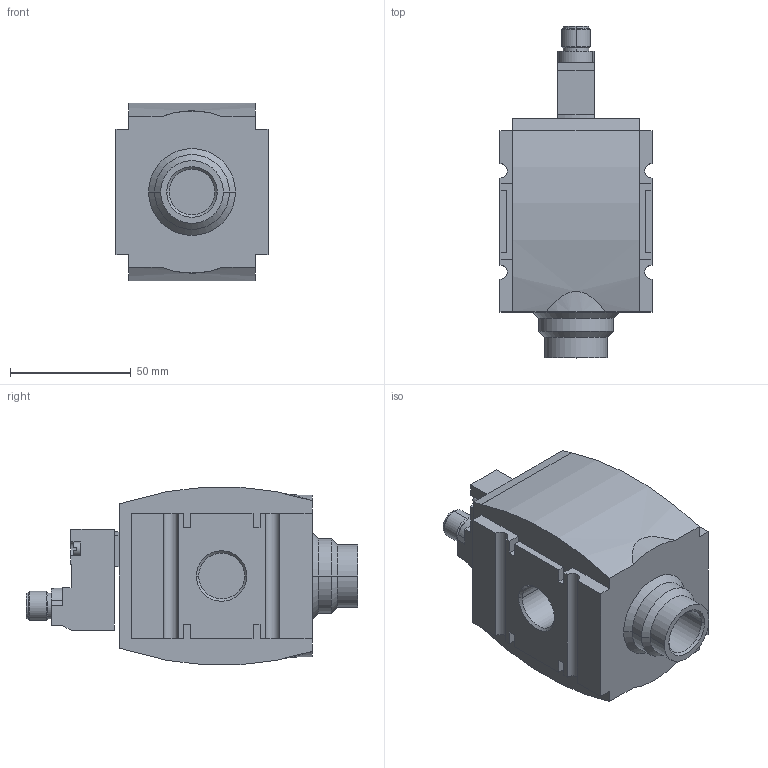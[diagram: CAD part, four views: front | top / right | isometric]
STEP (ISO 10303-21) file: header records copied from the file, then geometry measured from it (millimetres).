
FILE_DESCRIPTION((''),'2;1');
FILE_NAME('R412007354','2016-06-22T',('prr2cob'),(''),'PRO/ENGINEER BY PARAMETRIC TECHNOLOGY CORPORATION, 2012421','PRO/ENGINEER BY PARAMETRIC TECHNOLOGY CORPORATION, 2012421','');
FILE_SCHEMA(('CONFIG_CONTROL_DESIGN','SHAPE_APPEARANCE_LAYERS_GROUPS'));
Length unit declared in the file: millimetre
Products named in the file (1): R412007354
Bounding box: 63 x 137.55 x 73.54 mm (x, y, z)
Volume: 341154.9 mm3; surface area: 40323 mm2
Topology: 1 solids, 5 shells, 185 faces, 464 edges, 300 vertices
Faces by surface type: plane 114, cylinder 53, cone 18
Entity records: 5644 total; most frequent: CARTESIAN_POINT 1035, DIRECTION 970, ORIENTED_EDGE 928, EDGE_CURVE 464, VECTOR 324, LINE 324, AXIS2_PLACEMENT_3D 323, VERTEX_POINT 300
